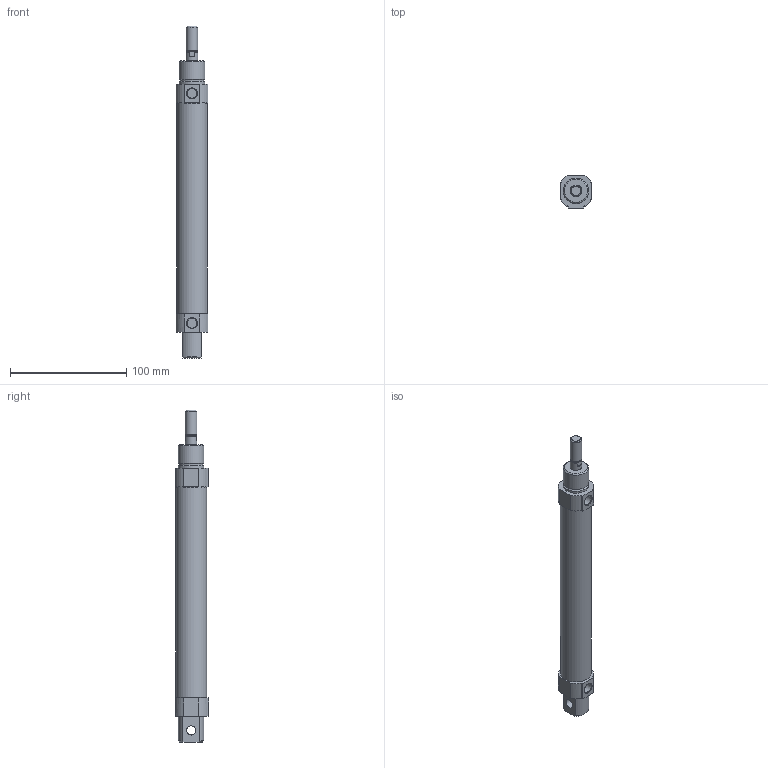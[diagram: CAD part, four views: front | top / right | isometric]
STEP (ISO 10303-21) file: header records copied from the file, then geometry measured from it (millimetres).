
FILE_DESCRIPTION((''),'2;1');
FILE_NAME('I:\3D電子目錄\氣缸\SDA\SDA25\SDA25\SDA25x150.stp','2007-08-06T10:33:00',('Administrator'),(''),'Autodesk Inventor 2008','Autodesk Inventor 2008','');
FILE_SCHEMA(('AUTOMOTIVE_DESIGN { 1 0 10303 214 1 1 1 1 }'));
Length unit declared in the file: millimetre
Products named in the file (1): SDA25X150
Bounding box: 27 x 28.5 x 286 mm (x, y, z)
Volume: 137500.4 mm3; surface area: 24559.7 mm2
Topology: 1 solids, 1 shells, 62 faces, 146 edges, 94 vertices
Faces by surface type: plane 30, cylinder 19, cone 10, bspline 2, torus 1
Full cylindrical faces by diameter (mm): 8 x1, 8.5 x2, 8.6 x1, 10 x2, 22 x2, 26.6 x1
Entity records: 1718 total; most frequent: CARTESIAN_POINT 307, DIRECTION 298, ORIENTED_EDGE 258, EDGE_CURVE 129, AXIS2_PLACEMENT_3D 116, VERTEX_POINT 93, EDGE_LOOP 88, VECTOR 66
